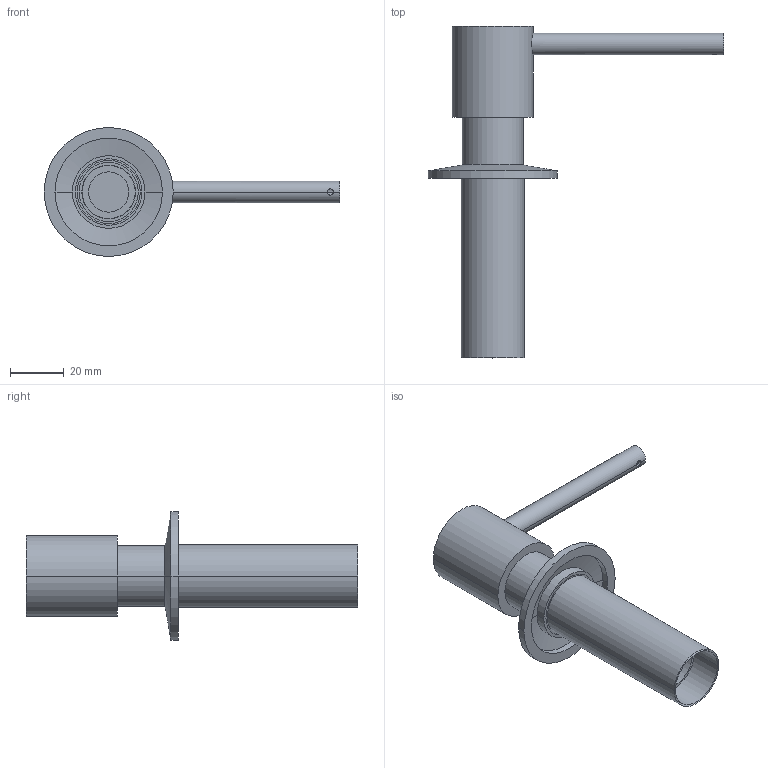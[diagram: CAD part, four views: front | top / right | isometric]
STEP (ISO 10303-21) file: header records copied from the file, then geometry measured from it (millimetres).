
FILE_DESCRIPTION((''),'2;1');
FILE_NAME('48481--_ASM','2026-10-15T08:23:37',('simi1'),(''),'CREO PARAMETRIC BY PTC INC, 2022244','CREO PARAMETRIC BY PTC INC, 2022244','');
FILE_SCHEMA(('CONFIG_CONTROL_DESIGN'));
Length unit declared in the file: millimetre
Products named in the file (3): 44886--_AF0; 44885--_AF0; 48481--_ASM
Assembly tree (2 placements, depth 2):
  48481--_ASM
    44886--_AF0
    44885--_AF0
Bounding box: 110 x 123.5 x 48 mm (x, y, z)
Volume: 37493.2 mm3; surface area: 19570.5 mm2
Topology: 2 solids, 4 shells, 49 faces, 103 edges, 64 vertices
Faces by surface type: cylinder 29, plane 12, cone 8
Entity records: 1488 total; most frequent: CARTESIAN_POINT 307, DIRECTION 263, ORIENTED_EDGE 198, AXIS2_PLACEMENT_3D 112, EDGE_CURVE 103, VERTEX_POINT 64, EDGE_LOOP 57, CIRCLE 56
